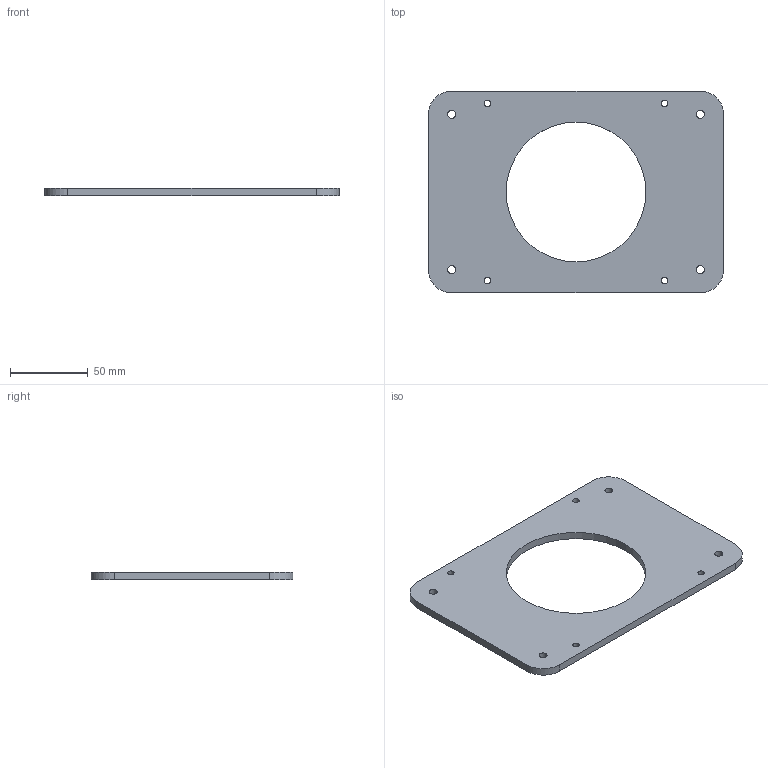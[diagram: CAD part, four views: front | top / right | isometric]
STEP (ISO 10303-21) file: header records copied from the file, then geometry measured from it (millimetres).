
FILE_DESCRIPTION (( 'STEP AP214' ), '1' );
FILE_NAME ('LI1000-02 Lite6嘐隅菁啣.STEP', '2022-07-07T08:36:37', ( '' ), ( '' ), 'SwSTEP 2.0', 'SolidWorks 2020', '' );
FILE_SCHEMA (( 'AUTOMOTIVE_DESIGN' ));
Length unit declared in the file: millimetre
Products named in the file (1): LI1000-02 Lite6嘐隅菁啣
Bounding box: 190 x 130 x 5 mm (x, y, z)
Volume: 90023.8 mm3; surface area: 41085.1 mm2
Topology: 1 solids, 1 shells, 28 faces, 78 edges, 52 vertices
Faces by surface type: cylinder 22, plane 6
Entity records: 1084 total; most frequent: DIRECTION 180, CARTESIAN_POINT 159, ORIENTED_EDGE 156, EDGE_CURVE 78, AXIS2_PLACEMENT_3D 73, VERTEX_POINT 52, EDGE_LOOP 46, CIRCLE 44
